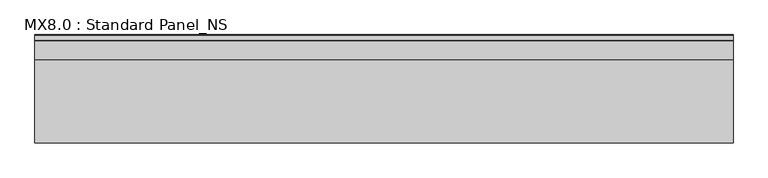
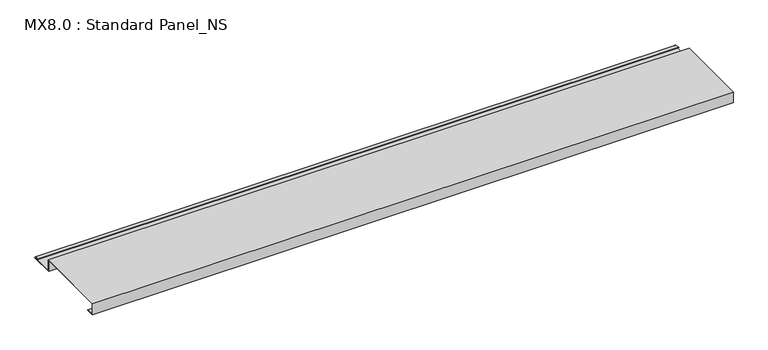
"""IFC4 building model written with IfcOpenShell, lengths in millimetres: proxy geometry, MX8.0 : Standard Panel_NS."""

from ifc_helpers import new_model, si_unit, point, frame, frame_2d, origin, place, context, project, spatial, polyline, circle_curve, trimmed, segment, composite_curve, outline, extrude, source, transform, mapped, element, save


def mx8_0_standard_panel_ns_97240bc2(model_context):
    return source(origin(), model_context, "Body", "SweptSolid", [
        extrude(outline(composite_curve([segment(polyline([(0.0, 0.0), (0.0, 38.0), (250.0, 38.0), (250.0, 0.0), (324.8317866, 0.0)]), True, "CONTINUOUS"), segment(trimmed(circle_curve(frame_2d((324.3094696, 0.9153551)), 1.0538928), [point((324.8317866, 0.0))], [point((324.8448691, 1.8231201))], True, "CARTESIAN"), True, "CONTINUOUS"), segment(polyline([(324.8448691, 1.8231201), (308.5989911, 4.94103), (308.7874714, 5.923107), (325.1748462, 2.778041)]), True, "CONTINUOUS"), segment(trimmed(circle_curve(frame_2d((324.3094696, 0.9153551)), 2.0538928), [point((325.1748462, 2.778041))], [point((325.0510156, -1.0))], False, "CARTESIAN"), True, "CONTINUOUS"), segment(polyline([(325.0510156, -1.0), (249.0, -1.0), (249.0, 37.0), (1.0, 37.0), (1.0, 1.0), (25.0, 1.0), (25.0, 0.0), (0.0, 0.0)]), True, "CONTINUOUS")], self_intersect=False)), frame((0.0, 0.0, 0.0), z_axis=(1.0, 0.0, 0.0), x_axis=(0.0, 1.0, 0.0)), (0.0, 0.0, 1.0), 2100.0),
    ])


if __name__ == "__main__":
    model = new_model("IFC4")
    model_context = context("Model", 3, world=origin())
    ifc_project = project(units=[si_unit("LENGTHUNIT", "METRE", prefix="MILLI")], contexts=[model_context])
    site = spatial("IfcSite", under=ifc_project)
    building = spatial("IfcBuilding", under=site)
    placement = place(None, origin())
    mx8_0_standard_panel_ns_shape = mx8_0_standard_panel_ns_97240bc2(model_context)
    element("IfcBuildingElementProxy", 1, Name="MX8.0 : Standard Panel_NS", ObjectType="MX8.0 : Standard Panel_NS", at=placement, inside=building, context=model_context, shape_type="MappedRepresentation", body=[
        mapped(mx8_0_standard_panel_ns_shape, transform((0.0, 0.0, 0.0), x_axis=(1.0, 0.0, 0.0), y_axis=(0.0, 1.0, 0.0), z_axis=(0.0, 0.0, 1.0))),
    ])
    save(model, "model.ifc")
